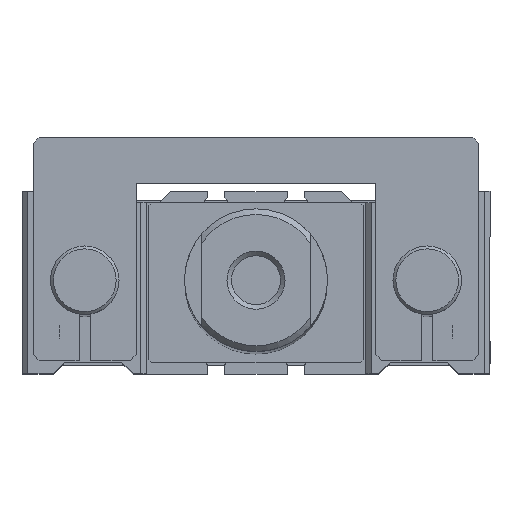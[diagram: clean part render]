
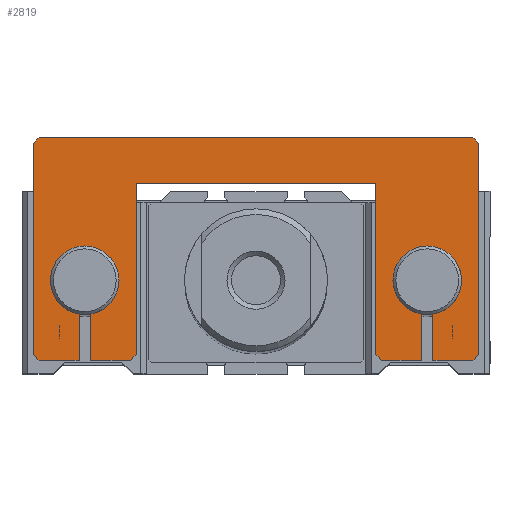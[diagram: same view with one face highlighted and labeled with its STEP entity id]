
A CAD part, top view. The second image highlights one B-rep face of the part: STEP entity #2819.
In plain terms, the highlighted planar face has unit normal (0, 0, 1).
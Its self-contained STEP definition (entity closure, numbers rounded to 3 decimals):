
#291=CARTESIAN_POINT('',(-29.0,-5.916,279.0));
#292=VERTEX_POINT('',#291);
#293=CARTESIAN_POINT('',(-31.0,-5.916,279.0));
#294=VERTEX_POINT('',#293);
#295=CARTESIAN_POINT('',(-30.0,0.0,279.0));
#296=DIRECTION('',(0.0,0.0,1.0));
#297=DIRECTION('',(0.0,-1.0,0.0));
#298=AXIS2_PLACEMENT_3D('',#295,#296,#297);
#299=CIRCLE('',#298,6.);
#300=EDGE_CURVE('',#292,#294,#299,.T.);
#378=CARTESIAN_POINT('',(31.,-5.916,279.0));
#379=VERTEX_POINT('',#378);
#380=CARTESIAN_POINT('',(29.,-5.916,279.0));
#381=VERTEX_POINT('',#380);
#382=CARTESIAN_POINT('',(30.0,0.0,279.0));
#383=DIRECTION('',(0.0,0.0,1.0));
#384=DIRECTION('',(0.0,-1.0,0.0));
#385=AXIS2_PLACEMENT_3D('',#382,#383,#384);
#386=CIRCLE('',#385,6.);
#387=EDGE_CURVE('',#379,#381,#386,.T.);
#2365=CARTESIAN_POINT('',(-39.0,24.,279.0));
#2366=VERTEX_POINT('',#2365);
#2367=CARTESIAN_POINT('',(-38.0,25.,279.0));
#2368=VERTEX_POINT('',#2367);
#2369=CARTESIAN_POINT('',(-39.0,24.,279.0));
#2370=DIRECTION('',(0.707,0.707,0.0));
#2371=VECTOR('',#2370,1.414);
#2372=LINE('',#2369,#2371);
#2373=EDGE_CURVE('',#2366,#2368,#2372,.T.);
#2429=CARTESIAN_POINT('',(-39.0,-13.,279.0));
#2430=VERTEX_POINT('',#2429);
#2437=CARTESIAN_POINT('',(-39.0,24.,279.0));
#2438=DIRECTION('',(0.0,-1.0,0.0));
#2439=VECTOR('',#2438,37.0);
#2440=LINE('',#2437,#2439);
#2441=EDGE_CURVE('',#2366,#2430,#2440,.T.);
#2622=CARTESIAN_POINT('',(38.0,25.,279.0));
#2623=VERTEX_POINT('',#2622);
#2630=CARTESIAN_POINT('',(39.0,24.,279.0));
#2631=VERTEX_POINT('',#2630);
#2632=CARTESIAN_POINT('',(38.0,25.,279.0));
#2633=DIRECTION('',(0.707,-0.707,0.0));
#2634=VECTOR('',#2633,1.414);
#2635=LINE('',#2632,#2634);
#2636=EDGE_CURVE('',#2623,#2631,#2635,.T.);
#2653=CARTESIAN_POINT('',(39.0,-13.,279.0));
#2654=VERTEX_POINT('',#2653);
#2655=CARTESIAN_POINT('',(39.0,-13.,279.0));
#2656=DIRECTION('',(0.0,1.0,0.0));
#2657=VECTOR('',#2656,37.0);
#2658=LINE('',#2655,#2657);
#2659=EDGE_CURVE('',#2654,#2631,#2658,.T.);
#2686=CARTESIAN_POINT('',(0.0,-14.,279.0));
#2687=DIRECTION('',(0.0,0.0,1.0));
#2688=DIRECTION('',(1.0,0.0,0.0));
#2689=AXIS2_PLACEMENT_3D('',#2686,#2687,#2688);
#2690=PLANE('',#2689);
#2691=ORIENTED_EDGE('',*,*,#2373,.F.);
#2692=ORIENTED_EDGE('',*,*,#2441,.T.);
#2693=CARTESIAN_POINT('',(-38.0,-14.,279.0));
#2694=VERTEX_POINT('',#2693);
#2695=CARTESIAN_POINT('',(-38.0,-14.,279.0));
#2696=DIRECTION('',(-0.707,0.707,0.0));
#2697=VECTOR('',#2696,1.414);
#2698=LINE('',#2695,#2697);
#2699=EDGE_CURVE('',#2694,#2430,#2698,.T.);
#2700=ORIENTED_EDGE('',*,*,#2699,.F.);
#2701=CARTESIAN_POINT('',(-31.0,-14.,279.0));
#2702=VERTEX_POINT('',#2701);
#2703=CARTESIAN_POINT('',(-38.0,-14.,279.0));
#2704=DIRECTION('',(1.0,0.0,0.0));
#2705=VECTOR('',#2704,7.0);
#2706=LINE('',#2703,#2705);
#2707=EDGE_CURVE('',#2694,#2702,#2706,.T.);
#2708=ORIENTED_EDGE('',*,*,#2707,.T.);
#2709=CARTESIAN_POINT('',(-31.0,-14.,279.0));
#2710=DIRECTION('',(0.0,1.0,0.0));
#2711=VECTOR('',#2710,8.084);
#2712=LINE('',#2709,#2711);
#2713=EDGE_CURVE('',#2702,#294,#2712,.T.);
#2714=ORIENTED_EDGE('',*,*,#2713,.T.);
#2715=ORIENTED_EDGE('',*,*,#300,.F.);
#2716=CARTESIAN_POINT('',(-29.0,-14.,279.0));
#2717=VERTEX_POINT('',#2716);
#2718=CARTESIAN_POINT('',(-29.0,-5.916,279.0));
#2719=DIRECTION('',(0.0,-1.0,0.0));
#2720=VECTOR('',#2719,8.084);
#2721=LINE('',#2718,#2720);
#2722=EDGE_CURVE('',#292,#2717,#2721,.T.);
#2723=ORIENTED_EDGE('',*,*,#2722,.T.);
#2724=CARTESIAN_POINT('',(-22.0,-14.,279.0));
#2725=VERTEX_POINT('',#2724);
#2726=CARTESIAN_POINT('',(-29.0,-14.,279.0));
#2727=DIRECTION('',(1.0,0.0,0.0));
#2728=VECTOR('',#2727,7.0);
#2729=LINE('',#2726,#2728);
#2730=EDGE_CURVE('',#2717,#2725,#2729,.T.);
#2731=ORIENTED_EDGE('',*,*,#2730,.T.);
#2732=CARTESIAN_POINT('',(-21.0,-13.,279.0));
#2733=VERTEX_POINT('',#2732);
#2734=CARTESIAN_POINT('',(-21.0,-13.,279.0));
#2735=DIRECTION('',(-0.707,-0.707,0.0));
#2736=VECTOR('',#2735,1.414);
#2737=LINE('',#2734,#2736);
#2738=EDGE_CURVE('',#2733,#2725,#2737,.T.);
#2739=ORIENTED_EDGE('',*,*,#2738,.F.);
#2740=CARTESIAN_POINT('',(-21.0,17.,279.0));
#2741=VERTEX_POINT('',#2740);
#2742=CARTESIAN_POINT('',(-21.0,-13.,279.0));
#2743=DIRECTION('',(0.0,1.0,0.0));
#2744=VECTOR('',#2743,30.);
#2745=LINE('',#2742,#2744);
#2746=EDGE_CURVE('',#2733,#2741,#2745,.T.);
#2747=ORIENTED_EDGE('',*,*,#2746,.T.);
#2748=CARTESIAN_POINT('',(21.0,17.,279.0));
#2749=VERTEX_POINT('',#2748);
#2750=CARTESIAN_POINT('',(-21.0,17.,279.0));
#2751=DIRECTION('',(1.0,0.0,0.0));
#2752=VECTOR('',#2751,42.0);
#2753=LINE('',#2750,#2752);
#2754=EDGE_CURVE('',#2741,#2749,#2753,.T.);
#2755=ORIENTED_EDGE('',*,*,#2754,.T.);
#2756=CARTESIAN_POINT('',(21.0,-13.,279.0));
#2757=VERTEX_POINT('',#2756);
#2758=CARTESIAN_POINT('',(21.0,17.,279.0));
#2759=DIRECTION('',(0.0,-1.0,0.0));
#2760=VECTOR('',#2759,30.);
#2761=LINE('',#2758,#2760);
#2762=EDGE_CURVE('',#2749,#2757,#2761,.T.);
#2763=ORIENTED_EDGE('',*,*,#2762,.T.);
#2764=CARTESIAN_POINT('',(22.0,-14.,279.0));
#2765=VERTEX_POINT('',#2764);
#2766=CARTESIAN_POINT('',(22.0,-14.,279.0));
#2767=DIRECTION('',(-0.707,0.707,0.0));
#2768=VECTOR('',#2767,1.414);
#2769=LINE('',#2766,#2768);
#2770=EDGE_CURVE('',#2765,#2757,#2769,.T.);
#2771=ORIENTED_EDGE('',*,*,#2770,.F.);
#2772=CARTESIAN_POINT('',(29.,-14.,279.0));
#2773=VERTEX_POINT('',#2772);
#2774=CARTESIAN_POINT('',(22.0,-14.,279.0));
#2775=DIRECTION('',(1.0,0.0,0.0));
#2776=VECTOR('',#2775,7.);
#2777=LINE('',#2774,#2776);
#2778=EDGE_CURVE('',#2765,#2773,#2777,.T.);
#2779=ORIENTED_EDGE('',*,*,#2778,.T.);
#2780=CARTESIAN_POINT('',(29.,-14.,279.0));
#2781=DIRECTION('',(0.0,1.0,0.0));
#2782=VECTOR('',#2781,8.084);
#2783=LINE('',#2780,#2782);
#2784=EDGE_CURVE('',#2773,#381,#2783,.T.);
#2785=ORIENTED_EDGE('',*,*,#2784,.T.);
#2786=ORIENTED_EDGE('',*,*,#387,.F.);
#2787=CARTESIAN_POINT('',(31.,-14.,279.0));
#2788=VERTEX_POINT('',#2787);
#2789=CARTESIAN_POINT('',(31.,-5.916,279.0));
#2790=DIRECTION('',(0.0,-1.0,0.0));
#2791=VECTOR('',#2790,8.084);
#2792=LINE('',#2789,#2791);
#2793=EDGE_CURVE('',#379,#2788,#2792,.T.);
#2794=ORIENTED_EDGE('',*,*,#2793,.T.);
#2795=CARTESIAN_POINT('',(38.0,-14.,279.0));
#2796=VERTEX_POINT('',#2795);
#2797=CARTESIAN_POINT('',(31.,-14.,279.0));
#2798=DIRECTION('',(1.0,0.0,0.0));
#2799=VECTOR('',#2798,7.);
#2800=LINE('',#2797,#2799);
#2801=EDGE_CURVE('',#2788,#2796,#2800,.T.);
#2802=ORIENTED_EDGE('',*,*,#2801,.T.);
#2803=CARTESIAN_POINT('',(39.0,-13.,279.0));
#2804=DIRECTION('',(-0.707,-0.707,0.0));
#2805=VECTOR('',#2804,1.414);
#2806=LINE('',#2803,#2805);
#2807=EDGE_CURVE('',#2654,#2796,#2806,.T.);
#2808=ORIENTED_EDGE('',*,*,#2807,.F.);
#2809=ORIENTED_EDGE('',*,*,#2659,.T.);
#2810=ORIENTED_EDGE('',*,*,#2636,.F.);
#2811=CARTESIAN_POINT('',(-38.0,25.,279.0));
#2812=DIRECTION('',(1.0,0.0,0.0));
#2813=VECTOR('',#2812,76.0);
#2814=LINE('',#2811,#2813);
#2815=EDGE_CURVE('',#2368,#2623,#2814,.T.);
#2816=ORIENTED_EDGE('',*,*,#2815,.F.);
#2817=EDGE_LOOP('',(#2691,#2692,#2700,#2708,#2714,#2715,#2723,#2731,#2739,#2747,#2755,#2763,#2771,#2779,#2785,#2786,#2794,#2802,#2808,#2809,#2810,#2816));
#2818=FACE_OUTER_BOUND('',#2817,.T.);
#2819=ADVANCED_FACE('',(#2818),#2690,.T.);
